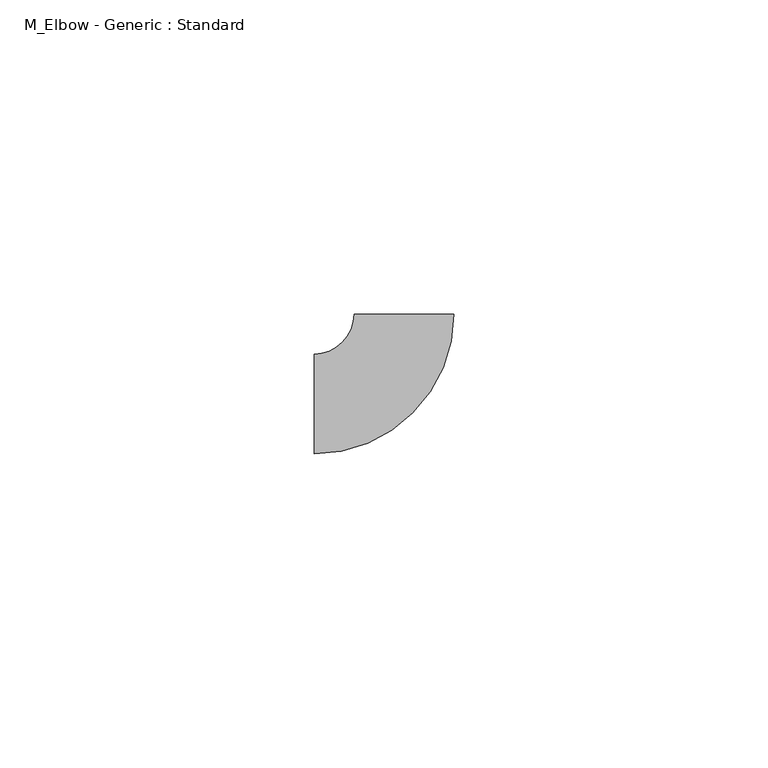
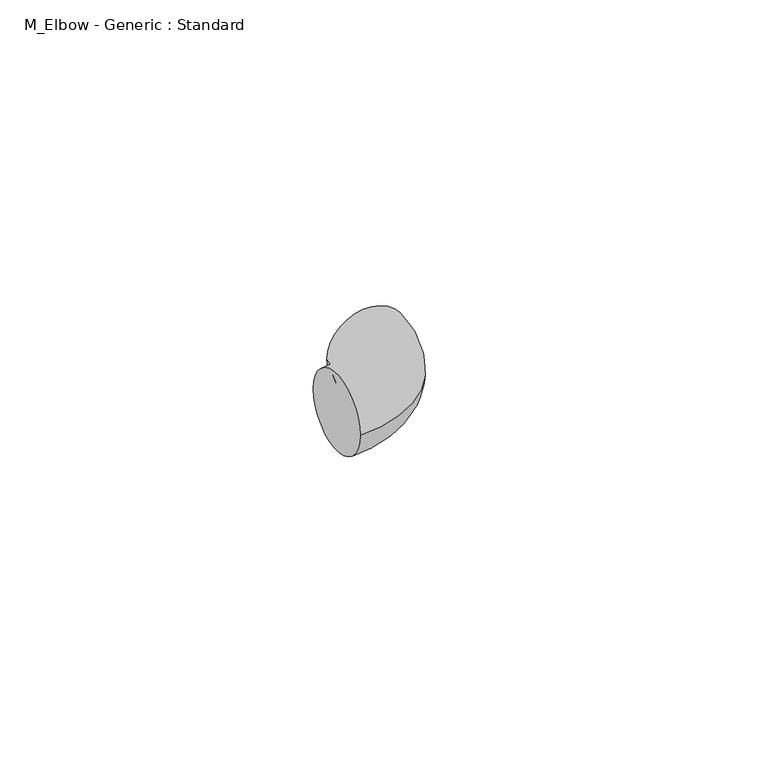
"""IFC4 building model written with IfcOpenShell, lengths in millimetres: pipe fitting geometry, M_Elbow - Generic : Standard."""

from ifc_helpers import new_model, si_unit, point, frame, origin, place, context, project, spatial, circle_curve, ellipse_curve, trimmed, source, transform, mapped, element, save
from ifc_brep_helpers import plane_surface, revolved_surface, advanced_brep


def m_elbow_generic_standard_aa88c7e2(model_context):
    return source(origin(), model_context, "Body", "AdvancedBrep", [
        advanced_brep(
        [(-14.2870967, -7.9375, 0.0), (-14.2870967, 7.9375, 0.0), (7.9379033, 14.2868726, 0.0), (-7.9370967, 14.2873207, 0.0)],
        [
            (0, 1, circle_curve(frame((-14.2870967, 0.0, 0.0), z_axis=(-1.0, 0.0, 0.0), x_axis=(0.0, 1.0, 0.0)), 7.9375)),
            (1, 0, circle_curve(frame((-14.2870967, 0.0, 0.0), z_axis=(-1.0, 0.0, 0.0), x_axis=(0.0, 1.0, 0.0)), 7.9375)),
            (2, 3, circle_curve(frame((0.0004033, 14.2870967, 0.0), z_axis=(2.823004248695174e-05, 0.9999999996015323, 0.0), x_axis=(-0.9999999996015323, 2.823004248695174e-05, 0.0)), 7.9375)),
            (3, 2, circle_curve(frame((0.0004033, 14.2870967, 0.0), z_axis=(2.823004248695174e-05, 0.9999999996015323, 0.0), x_axis=(-0.9999999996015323, 2.823004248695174e-05, 0.0)), 7.9375)),
            (3, 1, circle_curve(frame((-14.2870967, 14.2875, 0.0), z_axis=(0.0, 0.0, -1.0), x_axis=(0.0, -1.0, 0.0)), 6.35)),
            (0, 2, circle_curve(frame((-14.2870967, 14.2875, 0.0), z_axis=(0.0, 0.0, 1.0), x_axis=(0.0, -1.0, 0.0)), 22.225)),
        ],
        [
            plane_surface(frame((-14.2870967, 0.0, 0.0), z_axis=(-1.0, 0.0, 0.0), x_axis=(0.0, 0.0, 1.0))),
            plane_surface(frame((0.0004033, 14.2870967, 0.0), z_axis=(2.823004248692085e-05, 0.9999999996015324, 0.0), x_axis=(0.0, 0.0, 1.0))),
            revolved_surface(trimmed(ellipse_curve(frame((-14.2870967, 0.0, 0.0), z_axis=(-1.0, 0.0, 0.0), x_axis=(0.0, 1.0, 0.0)), 7.9375, 7.9375), [point((-14.2870967, -7.9375, 0.0))], [point((-14.2870967, 7.9375, 0.0))], True, "CARTESIAN"), (-14.2870967, 14.2875, 0.0), (0.0, 0.0, 1.0)),
            revolved_surface(trimmed(ellipse_curve(frame((-14.2870967, 0.0, 0.0), z_axis=(-1.0, 0.0, 0.0), x_axis=(0.0, 1.0, 0.0)), 7.9375, 7.9375), [point((-14.2870967, 7.9375, 0.0))], [point((-14.2870967, -7.9375, 0.0))], True, "CARTESIAN"), (-14.2870967, 14.2875, 0.0), (0.0, 0.0, 1.0)),
        ],
        [
            (0, [[1, 2]]),
            (1, [[3, 4]]),
            (2, [[5, -1, 6, -4]]),
            (3, [[-6, -2, -5, -3]]),
        ],
    ),
    ])


if __name__ == "__main__":
    model = new_model("IFC4")
    model_context = context("Model", 3, world=origin())
    ifc_project = project(units=[si_unit("LENGTHUNIT", "METRE", prefix="MILLI")], contexts=[model_context])
    site = spatial("IfcSite", under=ifc_project)
    building = spatial("IfcBuilding", under=site)
    placement = place(None, origin())
    m_elbow_generic_standard_shape = m_elbow_generic_standard_aa88c7e2(model_context)
    element("IfcPipeFitting", 1, ObjectType="M_Elbow - Generic : Standard", at=placement, inside=building, context=model_context, shape_type="MappedRepresentation", body=[
        mapped(m_elbow_generic_standard_shape, transform((0.0, 0.0, 0.0), x_axis=(1.0, 0.0, 0.0), y_axis=(0.0, 1.0, 0.0), z_axis=(0.0, 0.0, 1.0))),
    ])
    save(model, "model.ifc")
